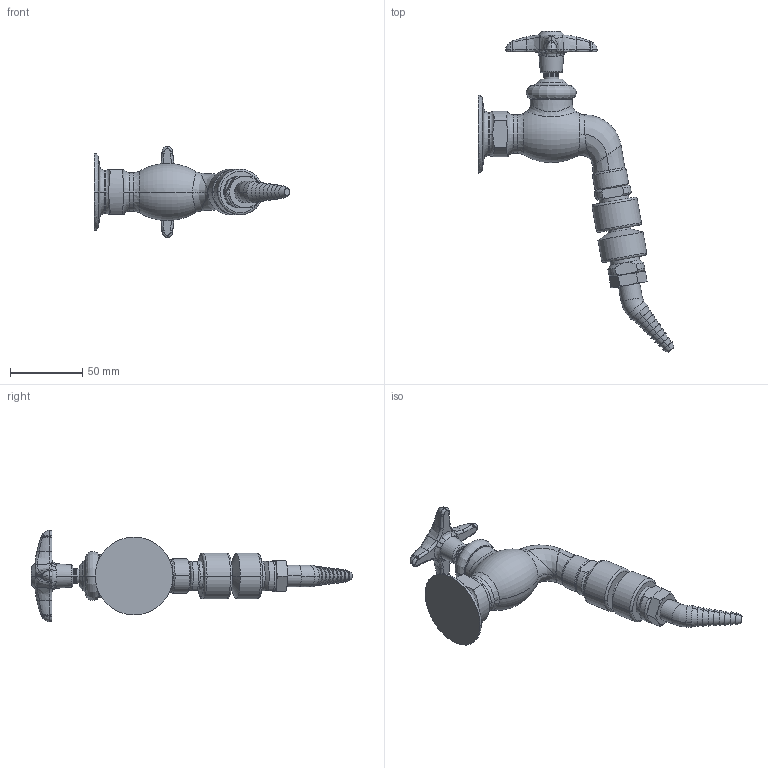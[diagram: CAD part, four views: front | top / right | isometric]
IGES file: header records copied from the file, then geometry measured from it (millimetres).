
Start section:  PTC IGES file: LWV3-C51.igs
Global section: file name: LWV3-C51.igs; native system: Creo Parametric by PTC Inc.; preprocessor: 2014500; author: usch_engrender; organization: Unknown; date: 20150910.122432; units: inch
Bounding box: 135.8 x 222.59 x 63.42 mm (x, y, z)
Volume: 167777.2 mm3; surface area: 32728.8 mm2
Topology: 1 solids, 2 shells, 326 faces, 724 edges, 419 vertices
Faces by surface type: bspline 200, revolution 126
